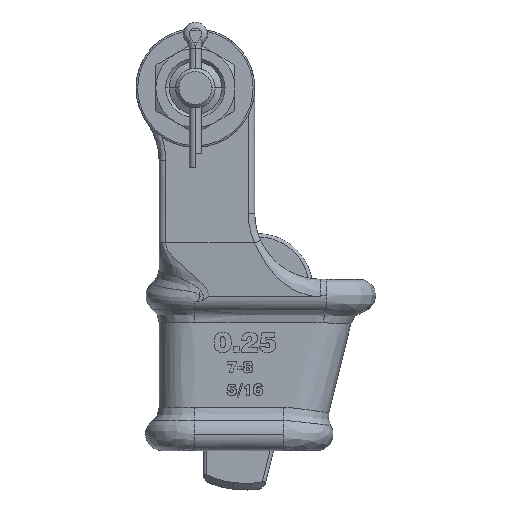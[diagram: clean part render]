
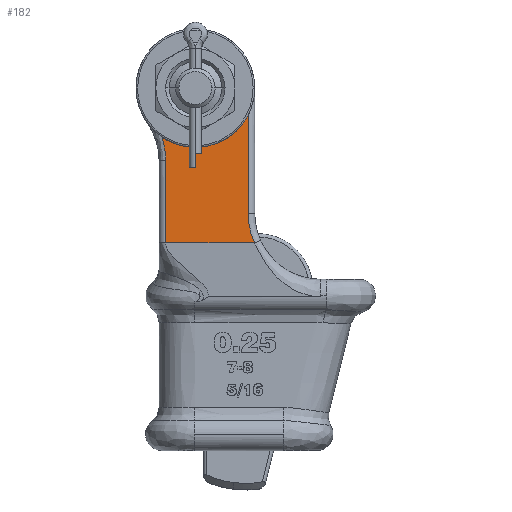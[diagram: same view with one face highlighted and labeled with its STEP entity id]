
A CAD part, top view. The second image highlights one B-rep face of the part: STEP entity #182.
In plain terms, the highlighted planar face has unit normal (0, 0, 1).
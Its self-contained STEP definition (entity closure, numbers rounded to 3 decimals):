
#182=ADVANCED_FACE('',(#869),#870,.T.);
#869=FACE_OUTER_BOUND('',#4100,.T.);
#870=PLANE('',#4101);
#4100=EDGE_LOOP('',(#12107,#12108,#12109,#12110,#12111,#12112,#12113));
#4101=AXIS2_PLACEMENT_3D('',#12114,#12115,#12116);
#12107=ORIENTED_EDGE('',*,*,#16201,.F.);
#12108=ORIENTED_EDGE('',*,*,#16248,.F.);
#12109=ORIENTED_EDGE('',*,*,#16191,.F.);
#12110=ORIENTED_EDGE('',*,*,#16249,.F.);
#12111=ORIENTED_EDGE('',*,*,#16235,.F.);
#12112=ORIENTED_EDGE('',*,*,#16251,.T.);
#12113=ORIENTED_EDGE('',*,*,#16203,.F.);
#12114=CARTESIAN_POINT('',(-31.0,-21.977,7.0));
#12115=DIRECTION('',(0.0,0.0,1.0));
#12116=DIRECTION('',(1.0,0.0,0.0));
#16191=EDGE_CURVE('',#18037,#18039,#18040,.T.);
#16201=EDGE_CURVE('',#18053,#18055,#18056,.T.);
#16203=EDGE_CURVE('',#18055,#18058,#18059,.T.);
#16235=EDGE_CURVE('',#18105,#18103,#18107,.T.);
#16248=EDGE_CURVE('',#18039,#18053,#18128,.T.);
#16249=EDGE_CURVE('',#18103,#18037,#18129,.T.);
#16251=EDGE_CURVE('',#18105,#18058,#18131,.T.);
#18037=VERTEX_POINT('',#23835);
#18039=VERTEX_POINT('',#23873);
#18040=B_SPLINE_CURVE_WITH_KNOTS('',3,(#23874,#23875,#23876,#23877,#23878,#23879,#23880,#23881,#23882,#23883,#23884,#23885,#23886,#23887,#23888,#23889,#23890,#23891),.UNSPECIFIED.,.F.,.F.,(4,2,2,2,2,2,2,2,4),(0.0,0.125,0.25,0.375,0.5,0.625,0.75,0.875,1.0),.UNSPECIFIED.);
#18053=VERTEX_POINT('',#24091);
#18055=VERTEX_POINT('',#24093);
#18056=B_SPLINE_CURVE_WITH_KNOTS('',3,(#24094,#24095,#24096,#24097),.UNSPECIFIED.,.F.,.F.,(4,4),(0.0,1.0),.UNSPECIFIED.);
#18058=VERTEX_POINT('',#24108);
#18059=B_SPLINE_CURVE_WITH_KNOTS('',3,(#24109,#24110,#24111,#24112),.UNSPECIFIED.,.F.,.F.,(4,4),(0.0,1.0),.UNSPECIFIED.);
#18103=VERTEX_POINT('',#24689);
#18105=VERTEX_POINT('',#24691);
#18107=LINE('',#24702,#24703);
#18128=LINE('',#25052,#25053);
#18129=(B_SPLINE_CURVE(3,(#25055,#25056,#25057,#25058),.UNSPECIFIED.,.F.,.F.)B_SPLINE_CURVE_WITH_KNOTS((4,4),(0.0,1.0),.UNSPECIFIED.)RATIONAL_B_SPLINE_CURVE((1.0,0.991,0.991,1.0))BOUNDED_CURVE()REPRESENTATION_ITEM('')GEOMETRIC_REPRESENTATION_ITEM()CURVE());
#18131=LINE('',#25076,#25077);
#23835=CARTESIAN_POINT('',(-10.191,-14.837,7.0));
#23873=CARTESIAN_POINT('',(16.0,-8.246,7.0));
#23874=CARTESIAN_POINT('',(-10.191,-14.837,7.0));
#23875=CARTESIAN_POINT('',(-9.142,-15.558,7.0));
#23876=CARTESIAN_POINT('',(-8.016,-16.167,7.0));
#23877=CARTESIAN_POINT('',(-5.662,-17.134,7.0));
#23878=CARTESIAN_POINT('',(-4.433,-17.492,7.0));
#23879=CARTESIAN_POINT('',(-1.928,-17.942,7.0));
#23880=CARTESIAN_POINT('',(-0.652,-18.033,7.0));
#23881=CARTESIAN_POINT('',(1.892,-17.945,7.0));
#23882=CARTESIAN_POINT('',(3.159,-17.766,7.0));
#23883=CARTESIAN_POINT('',(5.627,-17.145,7.0));
#23884=CARTESIAN_POINT('',(6.828,-16.703,7.0));
#23885=CARTESIAN_POINT('',(9.11,-15.576,7.0));
#23886=CARTESIAN_POINT('',(10.191,-14.892,7.0));
#23887=CARTESIAN_POINT('',(12.185,-13.31,7.0));
#23888=CARTESIAN_POINT('',(13.098,-12.413,7.0));
#23889=CARTESIAN_POINT('',(14.714,-10.446,7.0));
#23890=CARTESIAN_POINT('',(15.417,-9.377,7.0));
#23891=CARTESIAN_POINT('',(16.0,-8.246,7.0));
#24091=CARTESIAN_POINT('',(16.0,-38.0,7.0));
#24093=CARTESIAN_POINT('',(17.921,-46.99,7.0));
#24094=CARTESIAN_POINT('',(16.0,-38.0,7.0));
#24095=CARTESIAN_POINT('',(16.,-41.091,7.0));
#24096=CARTESIAN_POINT('',(16.661,-44.17,7.0));
#24097=CARTESIAN_POINT('',(17.921,-46.99,7.0));
#24108=CARTESIAN_POINT('',(17.87,-47.0,7.0));
#24109=CARTESIAN_POINT('',(17.921,-46.99,7.0));
#24110=CARTESIAN_POINT('',(17.906,-46.996,7.));
#24111=CARTESIAN_POINT('',(17.889,-47.,7.));
#24112=CARTESIAN_POINT('',(17.87,-47.0,7.0));
#24689=CARTESIAN_POINT('',(-9.,-21.977,7.0));
#24691=CARTESIAN_POINT('',(-9.0,-47.0,7.0));
#24702=CARTESIAN_POINT('',(-9.,-21.977,7.0));
#24703=VECTOR('',#35027,1000.0);
#25052=CARTESIAN_POINT('',(16.0,19.0,7.0));
#25053=VECTOR('',#35035,1000.0);
#25055=CARTESIAN_POINT('',(-9.,-21.977,7.0));
#25056=CARTESIAN_POINT('',(-9.0,-19.542,7.0));
#25057=CARTESIAN_POINT('',(-9.401,-17.141,7.0));
#25058=CARTESIAN_POINT('',(-10.191,-14.837,7.0));
#25076=CARTESIAN_POINT('',(-31.0,-47.0,7.0));
#25077=VECTOR('',#35036,1000.0);
#35027=DIRECTION('',(0.,1.0,0.0));
#35035=DIRECTION('',(0.,-1.0,-0.0));
#35036=DIRECTION('',(1.0,0.0,-0.0));
